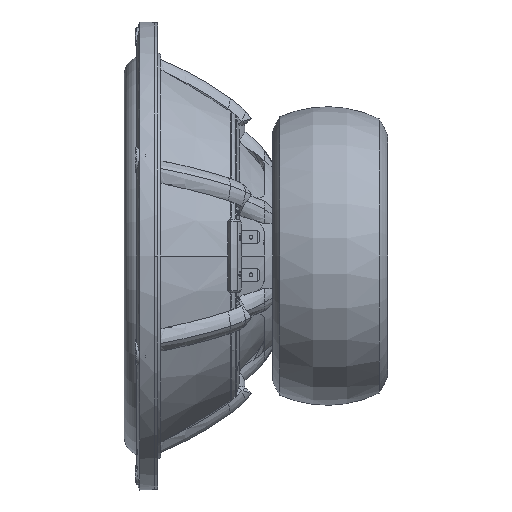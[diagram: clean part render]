
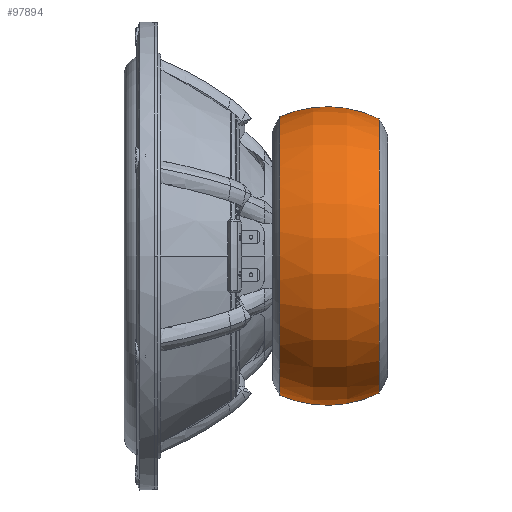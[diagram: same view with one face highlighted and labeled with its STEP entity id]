
A CAD part, left-side view. The second image highlights one B-rep face of the part: STEP entity #97894.
In plain terms, the highlighted toroidal (fillet/blend) face has major radius 15.803 mm and minor radius 55 mm.
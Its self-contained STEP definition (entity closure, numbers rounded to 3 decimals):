
#3576 = AXIS2_PLACEMENT_3D ( 'NONE', #19981, #6175, #163434 ) ;
#3901 = DIRECTION ( 'NONE',  ( 0., 0., 1. ) ) ;
#6175 = DIRECTION ( 'NONE',  ( 0., 1., 0. ) ) ;
#19802 = VERTEX_POINT ( 'NONE', #137912 ) ;
#19981 = CARTESIAN_POINT ( 'NONE',  ( 0., -23.7, 0. ) ) ;
#26232 = EDGE_CURVE ( 'NONE', #107421, #96863, #150812, .T. ) ;
#29091 = TOROIDAL_SURFACE ( 'NONE', #132640, 15.803, 55. ) ;
#30311 = EDGE_CURVE ( 'NONE', #119834, #107421, #128367, .T. ) ;
#31526 = DIRECTION ( 'NONE',  ( 0., 1., 0. ) ) ;
#31678 = DIRECTION ( 'NONE',  ( -1., 0., 0. ) ) ;
#37300 = CARTESIAN_POINT ( 'NONE',  ( 0., -70.766, -65. ) ) ;
#43523 = FACE_OUTER_BOUND ( 'NONE', #148902, .T. ) ;
#48421 = AXIS2_PLACEMENT_3D ( 'NONE', #118507, #75885, #133406 ) ;
#49156 = CIRCLE ( 'NONE', #152708, 55. ) ;
#56006 = DIRECTION ( 'NONE',  ( 0., 0., -1. ) ) ;
#59350 = EDGE_CURVE ( 'NONE', #119834, #19802, #49156, .T. ) ;
#65484 = CIRCLE ( 'NONE', #3576, 66. ) ;
#71255 = ORIENTED_EDGE ( 'NONE', *, *, #30311, .T. ) ;
#74965 = CARTESIAN_POINT ( 'NONE',  ( 0., -46.177, 0. ) ) ;
#75885 = DIRECTION ( 'NONE',  ( 0., 1., 0. ) ) ;
#80715 = EDGE_CURVE ( 'NONE', #19802, #96863, #65484, .T. ) ;
#88100 = CARTESIAN_POINT ( 'NONE',  ( 0., -46.177, 15.803 ) ) ;
#91650 = AXIS2_PLACEMENT_3D ( 'NONE', #88100, #31678, #170593 ) ;
#96863 = VERTEX_POINT ( 'NONE', #125694 ) ;
#97894 = ADVANCED_FACE ( 'NONE', ( #43523 ), #29091, .T. ) ;
#99518 = CARTESIAN_POINT ( 'NONE',  ( 0., -46.177, -15.803 ) ) ;
#103689 = CARTESIAN_POINT ( 'NONE',  ( 0., -70.766, 65. ) ) ;
#107421 = VERTEX_POINT ( 'NONE', #103689 ) ;
#118507 = CARTESIAN_POINT ( 'NONE',  ( 0., -70.766, 0. ) ) ;
#119834 = VERTEX_POINT ( 'NONE', #37300 ) ;
#125694 = CARTESIAN_POINT ( 'NONE',  ( 0., -23.7, 66. ) ) ;
#128367 = CIRCLE ( 'NONE', #48421, 65. ) ;
#132640 = AXIS2_PLACEMENT_3D ( 'NONE', #74965, #31526, #3901 ) ;
#133406 = DIRECTION ( 'NONE',  ( 0., 0., 1. ) ) ;
#137912 = CARTESIAN_POINT ( 'NONE',  ( 0., -23.7, -66. ) ) ;
#139011 = ORIENTED_EDGE ( 'NONE', *, *, #80715, .F. ) ;
#148902 = EDGE_LOOP ( 'NONE', ( #176254, #71255, #173884, #139011 ) ) ;
#150812 = CIRCLE ( 'NONE', #91650, 55. ) ;
#152708 = AXIS2_PLACEMENT_3D ( 'NONE', #99518, #169077, #56006 ) ;
#163434 = DIRECTION ( 'NONE',  ( 0., 0., 1. ) ) ;
#169077 = DIRECTION ( 'NONE',  ( 1., 0., 0. ) ) ;
#170593 = DIRECTION ( 'NONE',  ( 0., 0., 1. ) ) ;
#173884 = ORIENTED_EDGE ( 'NONE', *, *, #26232, .T. ) ;
#176254 = ORIENTED_EDGE ( 'NONE', *, *, #59350, .F. ) ;
